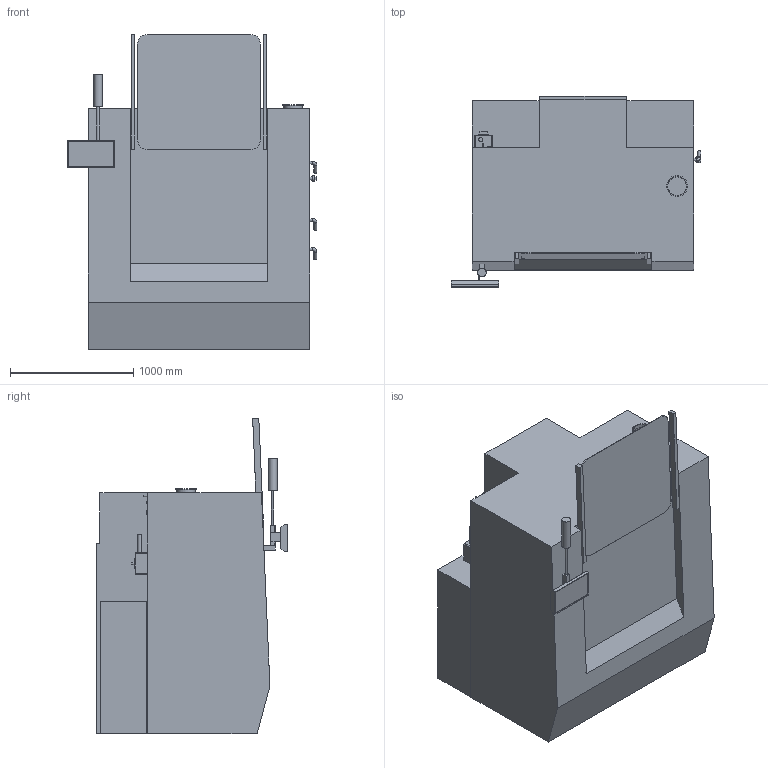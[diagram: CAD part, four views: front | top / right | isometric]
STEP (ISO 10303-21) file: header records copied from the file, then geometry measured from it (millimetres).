
FILE_DESCRIPTION(/* description */ (''),/* implementation_level */ '2;1');
FILE_NAME(/* name */ 'C:\Vault_pracovni\Projekty\031 Swash\02 CH2017\H - Hlavní sestava\Hyper Swash 3D model_20.02.20.stp',/* time_stamp */ '2020-02-20T17:29:40+01:00',/* author */ ('konkol'),/* organization */ (''),/* preprocessor_version */ 'ST-DEVELOPER v18',/* originating_system */ 'Autodesk Inventor 2020',/* authorisation */ '');
FILE_SCHEMA (('AUTOMOTIVE_DESIGN { 1 0 10303 214 3 1 1 }'));
Length unit declared in the file: millimetre
Products named in the file (1): Hyper Swash 3D model_20.02.20
Bounding box: 2028.5 x 1551 x 2561.04 mm (x, y, z)
Volume: 4263929110.3 mm3; surface area: 24143519.7 mm2
Topology: 9 solids, 9 shells, 1429 faces, 3834 edges, 2561 vertices
Faces by surface type: plane 1010, bspline 344, cylinder 53, torus 16, sphere 6
Full cylindrical faces by diameter (mm): 8 x2, 13 x1, 15 x1, 20 x1, 21 x6, 25 x9, 30 x1, 32 x1, 42 x1, 70 x1, 80 x1, 150 x1, 153 x1, 170 x1
Entity records: 47324 total; most frequent: CARTESIAN_POINT 12369, ORIENTED_EDGE 7668, DIRECTION 5505, EDGE_CURVE 3834, LINE 2943, VECTOR 2943, VERTEX_POINT 2561, EDGE_LOOP 1573
